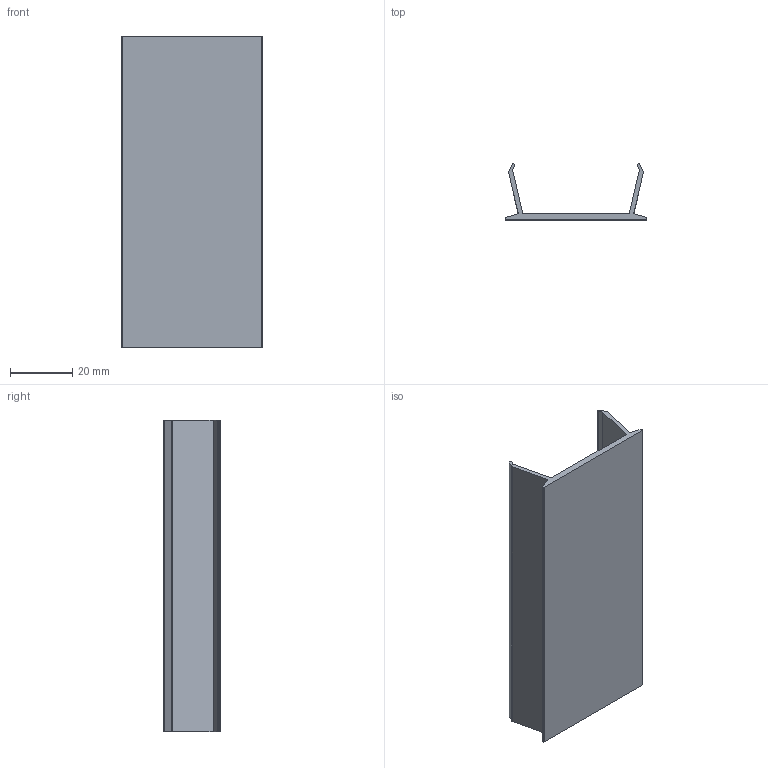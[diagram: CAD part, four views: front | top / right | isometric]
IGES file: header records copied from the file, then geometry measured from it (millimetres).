
Global section: file name: No Iges File Name specified; native system: Autodesk Inventor 2012; preprocessor: AutoDesk Inventor Iges Exporter R2012; author: anna.b; date: 20130731.144043; units: millimetre
Bounding box: 45.21 x 18.05 x 100 mm (x, y, z)
Volume: 13038.6 mm3; surface area: 15868.4 mm2
Topology: 1 solids, 1 shells, 34 faces, 96 edges, 64 vertices
Faces by surface type: plane 18, cylinder 10, revolution 6
